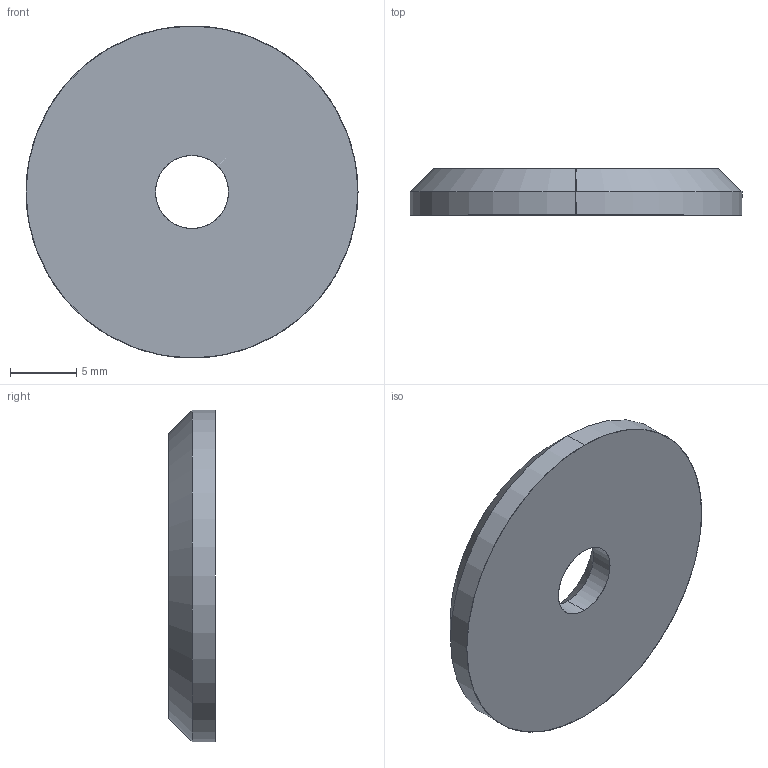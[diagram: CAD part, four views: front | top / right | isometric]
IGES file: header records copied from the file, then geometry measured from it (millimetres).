
Start section: SolidWorks IGES file using analytic representation for surfaces
Global section: file name: C:\Documents and Settings\IANO\Desktop\Temp File\Process pending\EXISTING\36720_v2\36720_v2_20170629_IGES\36720.W0525.igs; native system: SolidWorks 2009; preprocessor: SolidWorks 2009; author: IANO; date: 170627.110941; units: millimetre
Bounding box: 25 x 3.5 x 25 mm (x, y, z)
Surface area: 1171.4 mm2 (no closed solid volume)
Topology: 0 solids, 0 shells, 10 faces, 160 edges, 160 vertices
Faces by surface type: revolution 8, bspline 2
